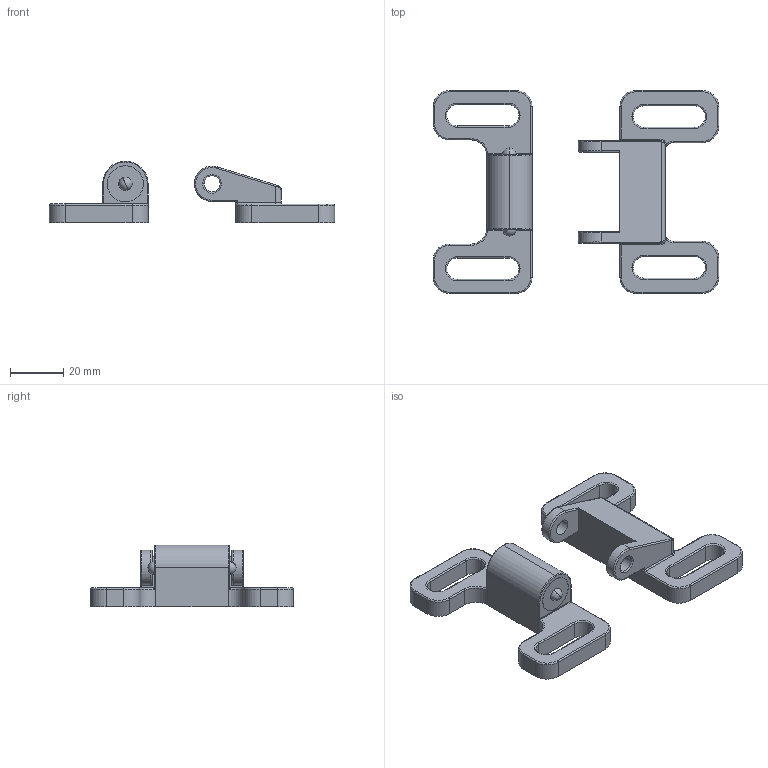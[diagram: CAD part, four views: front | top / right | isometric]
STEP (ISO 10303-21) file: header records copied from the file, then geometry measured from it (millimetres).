
FILE_DESCRIPTION (( 'STEP AP203' ), '1' );
FILE_NAME ('double ball catchexp.STEP', '2012-05-29T20:33:02', ( '' ), ( '' ), 'SwSTEP 2.0', 'SolidWorks 2010', '' );
FILE_SCHEMA (( 'CONFIG_CONTROL_DESIGN' ));
Length unit declared in the file: millimetre
Products named in the file (4): double ball catchexp; double ball catch 1; double ball catch 3; double ball catch 2
Assembly tree (4 placements, depth 2):
  double ball catchexp
    double ball catch 2  x2
    double ball catch 1
    double ball catch 3
Bounding box: 106.87 x 76 x 23.12 mm (x, y, z)
Volume: 36630.9 mm3; surface area: 15282.8 mm2
Topology: 4 solids, 4 shells, 196 faces, 468 edges, 274 vertices
Faces by surface type: cylinder 85, torus 48, plane 43, bspline 16, sphere 4
Entity records: 6886 total; most frequent: CARTESIAN_POINT 2010, DIRECTION 1006, ORIENTED_EDGE 900, EDGE_CURVE 450, AXIS2_PLACEMENT_3D 411, VERTEX_POINT 267, CIRCLE 230, EDGE_LOOP 203
